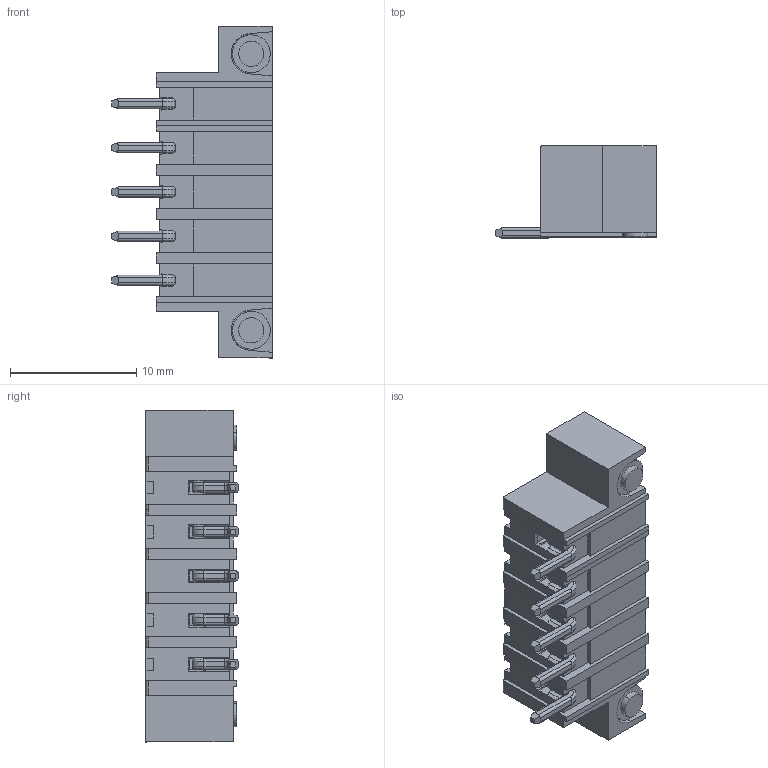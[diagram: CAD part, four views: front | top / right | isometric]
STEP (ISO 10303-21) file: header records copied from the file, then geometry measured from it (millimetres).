
FILE_DESCRIPTION (( 'STEP AP214' ), '1' );
FILE_NAME ('110-M-216-SMD-05.STEP', '2016-12-06T15:07:54', ( '' ), ( '' ), 'SwSTEP 2.0', 'SolidWorks 2016', '' );
FILE_SCHEMA (( 'AUTOMOTIVE_DESIGN' ));
Length unit declared in the file: millimetre
Products named in the file (1): 110-M-216-SMD-05
Bounding box: 12.7 x 7.3 x 26.3 mm (x, y, z)
Volume: 792.9 mm3; surface area: 2036.9 mm2
Topology: 1 solids, 1 shells, 726 faces, 1879 edges, 1176 vertices
Faces by surface type: plane 489, cylinder 170, cone 37, bspline 30
Entity records: 23884 total; most frequent: CARTESIAN_POINT 7482, ORIENTED_EDGE 3758, DIRECTION 2817, EDGE_CURVE 1879, VERTEX_POINT 1176, LINE 1099, VECTOR 1099, AXIS2_PLACEMENT_3D 859
